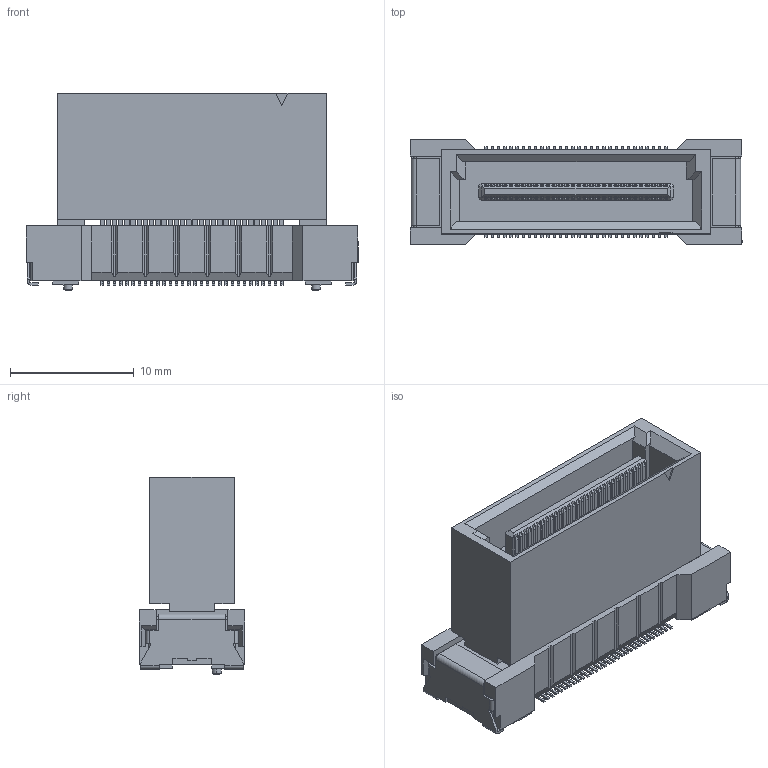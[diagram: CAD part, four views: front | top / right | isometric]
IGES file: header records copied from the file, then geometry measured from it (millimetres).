
Start section: Elysium IGES Interface
Global section: file name: 146HG:\その他\DT関連\【59期以前】\DT_CADﾃﾞｰﾀ\DT_3DCAD\DT0□\FS-10\60-36-0113_WEBサイトアップロード用\ボス有り_DT01-XXXFS-10\P3E104_DT01-060FS-10-T.igs; native system: Creo Elements/Direct Modeling 20.4A  18-Oct-2021; preprocessor: Creo Element/Direct IGES_3D V2.2; author: Unknown; organization: Unknown; date: 20220225.172510; units: millimetre
Bounding box: 26.8 x 8.5 x 15.95 mm (x, y, z)
Volume: 2073.7 mm3; surface area: 2059.5 mm2
Topology: 1 solids, 1 shells, 1811 faces, 5085 edges, 3338 vertices
Faces by surface type: bspline 1811
